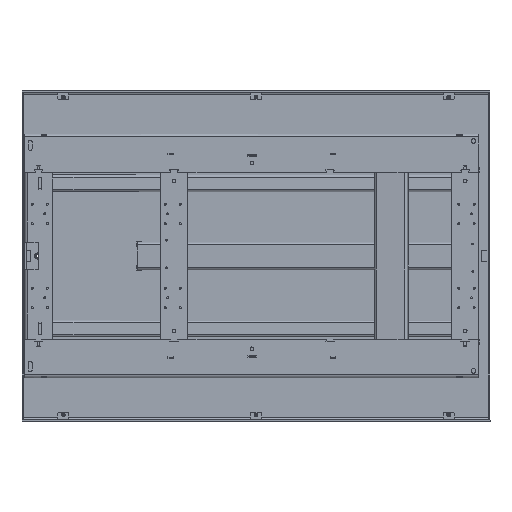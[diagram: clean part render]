
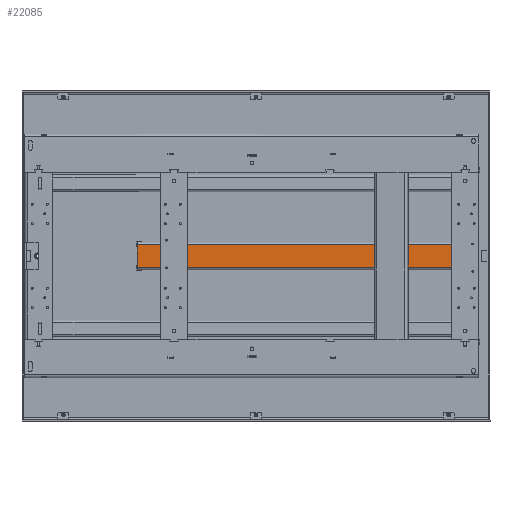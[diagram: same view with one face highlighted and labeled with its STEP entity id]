
A CAD part, top view. The second image highlights one B-rep face of the part: STEP entity #22085.
In plain terms, the highlighted planar face has unit normal (0, 0, 1).
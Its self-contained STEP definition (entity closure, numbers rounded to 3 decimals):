
#1289=PLANE('',#24479);
#2330=FACE_OUTER_BOUND('',#3708,.T.);
#3708=EDGE_LOOP('',(#19725,#19726,#19727,#19728));
#5571=LINE('',#37078,#7477);
#5585=LINE('',#37120,#7491);
#5590=LINE('',#37135,#7496);
#5593=LINE('',#37141,#7499);
#7477=VECTOR('',#30539,10.);
#7491=VECTOR('',#30579,10.);
#7496=VECTOR('',#30596,10.);
#7499=VECTOR('',#30605,10.);
#10763=VERTEX_POINT('',#37075);
#10764=VERTEX_POINT('',#37077);
#10778=VERTEX_POINT('',#37117);
#10779=VERTEX_POINT('',#37119);
#13775=EDGE_CURVE('',#10763,#10764,#5571,.T.);
#13796=EDGE_CURVE('',#10778,#10779,#5585,.T.);
#13805=EDGE_CURVE('',#10763,#10779,#5590,.T.);
#13808=EDGE_CURVE('',#10778,#10764,#5593,.T.);
#19725=ORIENTED_EDGE('',*,*,#13808,.T.);
#19726=ORIENTED_EDGE('',*,*,#13775,.F.);
#19727=ORIENTED_EDGE('',*,*,#13805,.T.);
#19728=ORIENTED_EDGE('',*,*,#13796,.F.);
#22085=ADVANCED_FACE('',(#2330),#1289,.T.);
#24479=AXIS2_PLACEMENT_3D('',#37147,#30614,#30615);
#30539=DIRECTION('',(0.,1.,0.));
#30579=DIRECTION('',(0.,-1.,0.));
#30596=DIRECTION('',(1.,0.,0.));
#30605=DIRECTION('',(-1.,0.,0.));
#30614=DIRECTION('center_axis',(0.,0.,1.));
#30615=DIRECTION('ref_axis',(1.,0.,0.));
#37075=CARTESIAN_POINT('',(-587.5,-40.,5.));
#37077=CARTESIAN_POINT('',(-587.5,40.,5.));
#37078=CARTESIAN_POINT('',(-587.5,-50.,5.));
#37117=CARTESIAN_POINT('',(587.5,40.,5.));
#37119=CARTESIAN_POINT('',(587.5,-40.,5.));
#37120=CARTESIAN_POINT('',(587.5,50.,5.));
#37135=CARTESIAN_POINT('',(-293.75,-40.,5.));
#37141=CARTESIAN_POINT('',(293.75,40.,5.));
#37147=CARTESIAN_POINT('Origin',(0.,0.,5.));
